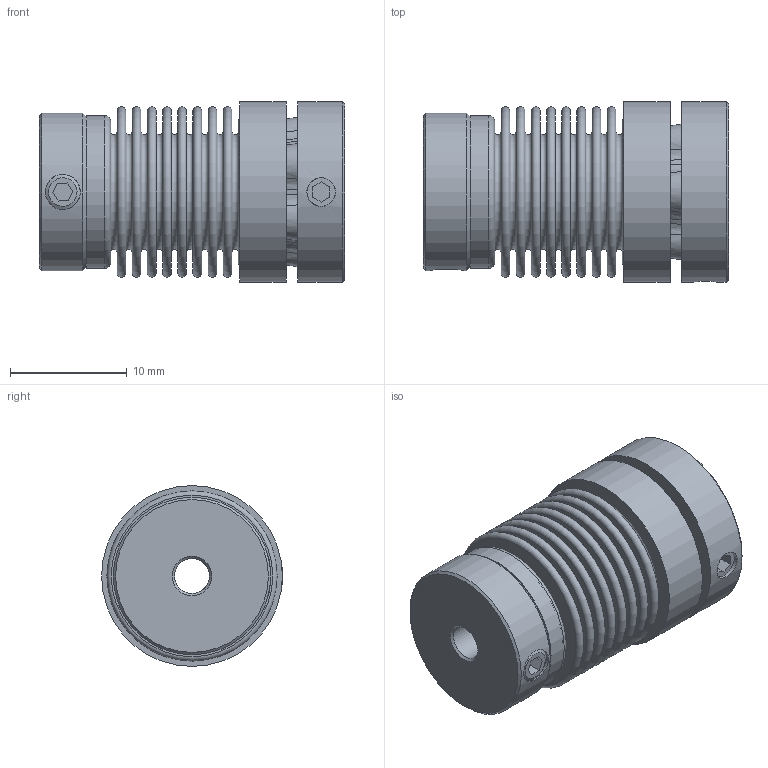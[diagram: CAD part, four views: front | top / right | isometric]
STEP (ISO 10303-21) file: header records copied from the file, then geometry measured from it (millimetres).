
FILE_DESCRIPTION( ( 'KBE1/14 - N7H8 - N14H7 - 98 Sh' ), '1' );
FILE_NAME( 'K:/Konstruktion/Fertigungszeichnungen/Metallbalgkupplung/KB1P/5-10/KB1P-5-26.stp', '14.12.2015', ( 'KBK-Antriebstechnik' ), ( 'KBK-Antriebstechnik' ), 'PSStep 16.0.42', 'Solid Edge St6', ' ' );
FILE_SCHEMA( ( 'AUTOMOTIVE_DESIGN { 1 0 10303 214 1 1 1 1 }' ) );
Length unit declared in the file: millimetre
Products named in the file (6): Assem1; Stecknabe KB1P-10; Balgaufnahme KB2P-10_für Step; MN10_Standard_2; BM5_Standard_1; Socket Set Screw Cup Point_DIN_DIN 916 - M3 x 4-N_8
Assembly tree (6 placements, depth 2):
  Assem1
    Stecknabe KB1P-10
    Balgaufnahme KB2P-10_für Step
    MN10_Standard_2
    BM5_Standard_1
    Socket Set Screw Cup Point_DIN_DIN 916 - M3 x 4-N_8  x2
Bounding box: 26.15 x 15.5 x 15.5 mm (x, y, z)
Volume: 2504.9 mm3; surface area: 6002.7 mm2
Topology: 6 solids, 6 shells, 192 faces, 400 edges, 255 vertices
Faces by surface type: cone 79, plane 61, torus 38, cylinder 14
Full cylindrical faces by diameter (mm): 2.459 x1, 3 x5, 12.9 x3, 13.1 x2, 13.5 x1, 15.5 x2
Entity records: 6188 total; most frequent: DIRECTION 876, CARTESIAN_POINT 875, ORIENTED_EDGE 598, AXIS2_PLACEMENT_3D 399, EDGE_CURVE 299, EDGE_LOOP 290, VERTEX_POINT 244, FACE_OUTER_BOUND 231
